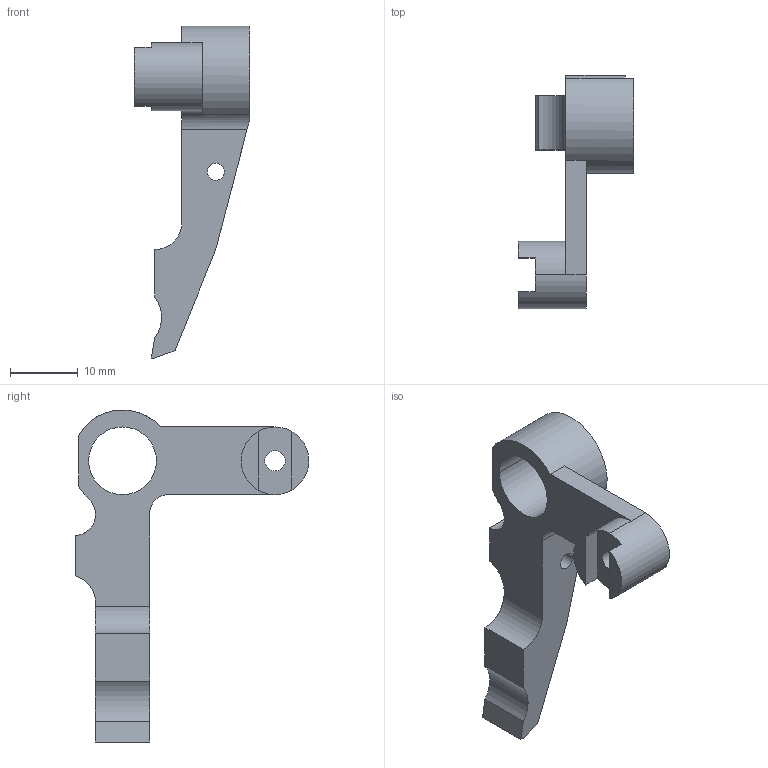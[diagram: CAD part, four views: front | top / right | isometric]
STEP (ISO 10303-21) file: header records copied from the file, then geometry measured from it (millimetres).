
FILE_DESCRIPTION (( 'STEP AP203' ), '1' );
FILE_NAME ('__2.stp_Défaut_sldprt.STEP', '2024-11-30T15:38:29', ( '' ), ( '' ), 'SwSTEP 2.0', 'SolidWorks 2023', '' );
FILE_SCHEMA (( 'CONFIG_CONTROL_DESIGN' ));
Length unit declared in the file: millimetre
Products named in the file (1): __2.stp_Défaut_sldprt
Bounding box: 17 x 34.5 x 49 mm (x, y, z)
Volume: 3844.3 mm3; surface area: 2905.5 mm2
Topology: 1 solids, 1 shells, 38 faces, 106 edges, 70 vertices
Faces by surface type: plane 21, cylinder 17
Entity records: 1363 total; most frequent: CARTESIAN_POINT 265, DIRECTION 218, ORIENTED_EDGE 212, EDGE_CURVE 106, AXIS2_PLACEMENT_3D 77, VERTEX_POINT 70, VECTOR 64, LINE 64
